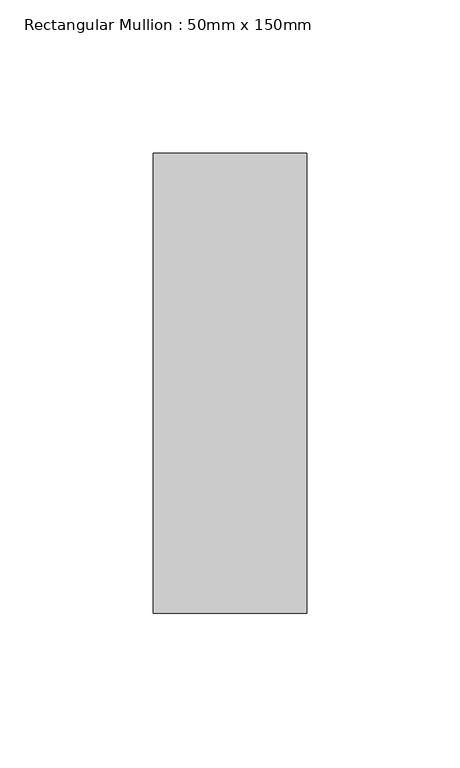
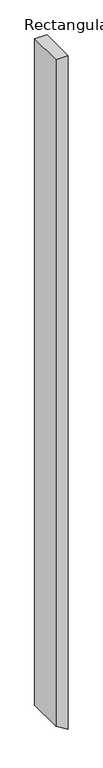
"""IFC4 building model written with IfcOpenShell, lengths in millimetres: member geometry, Rectangular Mullion : 50mm x 150mm."""

import ifcopenshell
import ifcopenshell.guid

model = None  # the IFC model being written
_history = None  # IfcOwnerHistory: only IFC2X3 demands one
_inside = {}  # id of a spatial element -> (the spatial element, [elements in it])
_under = {}  # id of a project, library or spatial element -> (it, [spatial elements below it])
_declared = {}  # id of a project -> (the project, [libraries it declares])
_typed = {}  # id of a type object -> (the type object, [elements of that type])
_made_of = {}  # id of a material, layer set ... -> (it, [elements and type objects made of it])


def new_model(schema):
    """Start an empty IFC model of exactly this schema.

    Asked for "IFC4X3", IfcOpenShell would pick the latest addendum, in which some entities
    have other attributes; the version numbers below select the first issue.
    IFC2X3 requires an IfcOwnerHistory on every rooted entity: one is made here for all.
    """
    global model, _history
    if schema == "IFC4X3":
        model = ifcopenshell.file(schema_version=(4, 3, 0, 0))
    else:
        model = ifcopenshell.file(schema=schema)
    _inside.clear()
    _under.clear()
    _declared.clear()
    _typed.clear()
    _made_of.clear()
    _history = None
    if model.schema == "IFC2X3":
        org = make("IfcOrganization", Name="unknown")
        user = make(
            "IfcPersonAndOrganization",
            ThePerson=make("IfcPerson", FamilyName="unknown"),
            TheOrganization=org,
        )
        app = make(
            "IfcApplication",
            ApplicationDeveloper=org,
            Version="unknown",
            ApplicationFullName="unknown",
            ApplicationIdentifier="unknown",
        )
        _history = make(
            "IfcOwnerHistory",
            OwningUser=user,
            OwningApplication=app,
            ChangeAction="ADDED",
            CreationDate=0,
        )
    return model


def make(cls, **values):
    """One entity of the class cls with the attributes given. An attribute that is None is left unset."""
    return model.create_entity(
        cls, **{name: value for name, value in values.items() if value is not None}
    )


def rooted(cls, **values):
    """An entity with a GlobalId (a new one), such as an element, a storey or a relation."""
    return make(cls, GlobalId=ifcopenshell.guid.new(), OwnerHistory=_history, **values)


def si_unit(unit_type, name, prefix=None):
    """IfcSIUnit, for example si_unit("LENGTHUNIT", "METRE", prefix="MILLI")."""
    return make("IfcSIUnit", UnitType=unit_type, Prefix=prefix, Name=name)


def assignment(units):
    """IfcUnitAssignment: the units of a project."""
    return None if units is None else make("IfcUnitAssignment", Units=units)


def point(xyz):
    """IfcCartesianPoint."""
    return None if xyz is None else make("IfcCartesianPoint", Coordinates=xyz)


def direction(xyz):
    """IfcDirection."""
    return None if xyz is None else make("IfcDirection", DirectionRatios=xyz)


def frame(location, z_axis=None, x_axis=None):
    """IfcAxis2Placement3D, a coordinate frame: its origin and axes. An axis left out is left unset."""
    return make(
        "IfcAxis2Placement3D",
        Location=point(location),
        Axis=direction(z_axis),
        RefDirection=direction(x_axis),
    )


def origin():
    """The frame at (0, 0, 0) with its axes left unset."""
    return frame((0.0, 0.0, 0.0))


def place(relative_to, where):
    """IfcLocalPlacement: puts the frame where relative to a parent placement (None: the world)."""
    return make(
        "IfcLocalPlacement", PlacementRelTo=relative_to, RelativePlacement=where
    )


def context(
    kind, dimensions, precision=None, world=None, true_north=None, identifier=None
):
    """IfcGeometricRepresentationContext, for example the 3D "Model" context."""
    return make(
        "IfcGeometricRepresentationContext",
        ContextIdentifier=identifier,
        ContextType=kind,
        CoordinateSpaceDimension=dimensions,
        Precision=precision,
        WorldCoordinateSystem=world,
        TrueNorth=true_north,
    )


def project(units=None, contexts=None):
    """IfcProject with its units and contexts."""
    return rooted(
        "IfcProject",
        Name="project",
        RepresentationContexts=contexts,
        UnitsInContext=assignment(units),
    )


def spatial(cls, under=None, at=None, **own):
    """A site, building, storey or space (cls), placed at a placement, below another one or the project."""
    s = rooted(cls, ObjectPlacement=at, **own)
    if under is not None:
        _under.setdefault(under.id(), (under, []))[1].append(s)
    return s


def polyline(points):
    """IfcPolyline through the points."""
    return make("IfcPolyline", Points=[point(p) for p in points])


def outline(outer, holes=None, kind="AREA"):
    """IfcArbitraryClosedProfileDef: a profile drawn as a closed curve; with holes, ...WithVoids."""
    if holes is None:
        return make("IfcArbitraryClosedProfileDef", ProfileType=kind, OuterCurve=outer)
    return make(
        "IfcArbitraryProfileDefWithVoids",
        ProfileType=kind,
        OuterCurve=outer,
        InnerCurves=holes,
    )


def extrude(swept, where, along, depth):
    """IfcExtrudedAreaSolid: the profile swept, set in the frame where, extruded along a direction by depth."""
    return make(
        "IfcExtrudedAreaSolid",
        SweptArea=swept,
        Position=where,
        ExtrudedDirection=direction(along),
        Depth=depth,
    )


def shape(context_of_items, identifier, shape_type, items):
    """IfcShapeRepresentation: the items that make up one representation, for example the "Body"."""
    return make(
        "IfcShapeRepresentation",
        ContextOfItems=context_of_items,
        RepresentationIdentifier=identifier,
        RepresentationType=shape_type,
        Items=items,
    )


def source(mapping_origin, context_of_items, identifier, shape_type, items):
    """IfcRepresentationMap: a shape defined once, which mapped items show again and again."""
    return make(
        "IfcRepresentationMap",
        MappingOrigin=mapping_origin,
        MappedRepresentation=shape(context_of_items, identifier, shape_type, items),
    )


def transform(
    local_origin,
    x_axis=None,
    y_axis=None,
    z_axis=None,
    scale=None,
    scale2=None,
    scale3=None,
    uniform=True,
):
    """IfcCartesianTransformationOperator3D, or its non-uniform kind. x_axis, y_axis, z_axis: its Axis1, 2, 3."""
    if uniform:
        return make(
            "IfcCartesianTransformationOperator3D",
            Axis1=direction(x_axis),
            Axis2=direction(y_axis),
            LocalOrigin=point(local_origin),
            Scale=scale,
            Axis3=direction(z_axis),
        )
    return make(
        "IfcCartesianTransformationOperator3DnonUniform",
        Axis1=direction(x_axis),
        Axis2=direction(y_axis),
        LocalOrigin=point(local_origin),
        Scale=scale,
        Axis3=direction(z_axis),
        Scale2=scale2,
        Scale3=scale3,
    )


def mapped(mapping_source, mapping_target):
    """IfcMappedItem: shows the shape of a source again, moved by a transform."""
    return make(
        "IfcMappedItem", MappingSource=mapping_source, MappingTarget=mapping_target
    )


def made_of(thing, what):
    """Note that an element or type object is made of a material, layer set ...; save() writes the relation."""
    if what is not None:
        _made_of.setdefault(what.id(), (what, []))[1].append(thing)
    return thing


def element(
    cls,
    number,
    at=None,
    inside=None,
    cuts=None,
    type_object=None,
    material=None,
    context=None,
    identifier="Body",
    shape_type=None,
    held_by="IfcProductDefinitionShape",
    body=None,
    shapes=None,
    **own,
):
    """One element of the class cls, such as IfcWall. Its Tag is "e" and its number.

    at: its placement. inside: the storey or other place that contains it. cuts: it is an
    opening in that element (IfcRelVoidsElement). A single representation is given by context,
    identifier, shape_type and body (its items); several are given by shapes. held_by: the class
    of the entity that holds the representations. save() writes the other relations.
    """
    e = rooted(cls, Tag="e%d" % number, ObjectPlacement=at, **own)
    if body is not None:
        shapes = [shape(context, identifier, shape_type, body)]
    if shapes is not None:
        e.Representation = make(held_by, Representations=shapes)
    if inside is not None:
        _inside.setdefault(inside.id(), (inside, []))[1].append(e)
    if cuts is not None:
        rooted(
            "IfcRelVoidsElement", RelatingBuildingElement=cuts, RelatedOpeningElement=e
        )
    if type_object is not None:
        _typed.setdefault(type_object.id(), (type_object, []))[1].append(e)
    return made_of(e, material)


def aggregate(whole, parts):
    """IfcRelAggregates: a whole, such as a stair, and the parts it consists of."""
    return rooted("IfcRelAggregates", RelatingObject=whole, RelatedObjects=parts)


def save(model, path):
    """Write the relations noted so far, then the file.

    IfcRelAggregates (storeys below a building ...), IfcRelContainedInSpatialStructure (elements
    in a storey), IfcRelDefinesByType, IfcRelAssociatesMaterial and IfcRelDeclares: one each for
    every whole, place, type object, material and project.
    """
    for whole, parts in _under.values():
        aggregate(whole, parts)
    for where, things in _inside.values():
        rooted(
            "IfcRelContainedInSpatialStructure",
            RelatedElements=things,
            RelatingStructure=where,
        )
    for kind, things in _typed.values():
        rooted("IfcRelDefinesByType", RelatedObjects=things, RelatingType=kind)
    for what, things in _made_of.values():
        rooted("IfcRelAssociatesMaterial", RelatedObjects=things, RelatingMaterial=what)
    for by, libraries in _declared.values():
        rooted("IfcRelDeclares", RelatingContext=by, RelatedDefinitions=libraries)
    model.write(path)


def rectangular_mullion_50mm_x_150mm_9a9261fc(model_context):
    return source(origin(), model_context, "Body", "SweptSolid", [
        extrude(outline(polyline([(0.0, 25.0), (0.0, -25.0), (-2890.8706818, -25.0), (-2919.7381952, 25.0), (0.0, 25.0)])), frame((0.0, -75.0, 0.0), z_axis=(0.0, 1.0, 0.0), x_axis=(0.0, 0.0, 1.0)), (0.0, 0.0, 1.0), 150.0),
    ])


if __name__ == "__main__":
    model = new_model("IFC4")
    model_context = context("Model", 3, world=origin())
    ifc_project = project(units=[si_unit("LENGTHUNIT", "METRE", prefix="MILLI")], contexts=[model_context])
    site = spatial("IfcSite", under=ifc_project)
    building = spatial("IfcBuilding", under=site)
    placement = place(None, origin())
    rectangular_mullion_50mm_x_150mm_shape = rectangular_mullion_50mm_x_150mm_9a9261fc(model_context)
    element("IfcMember", 1, ObjectType="Rectangular Mullion : 50mm x 150mm", at=placement, inside=building, context=model_context, shape_type="MappedRepresentation", body=[
        mapped(rectangular_mullion_50mm_x_150mm_shape, transform((0.0, 0.0, 0.0), x_axis=(1.0, 0.0, 0.0), y_axis=(0.0, 1.0, 0.0), z_axis=(0.0, 0.0, 1.0))),
    ])
    save(model, "model.ifc")
